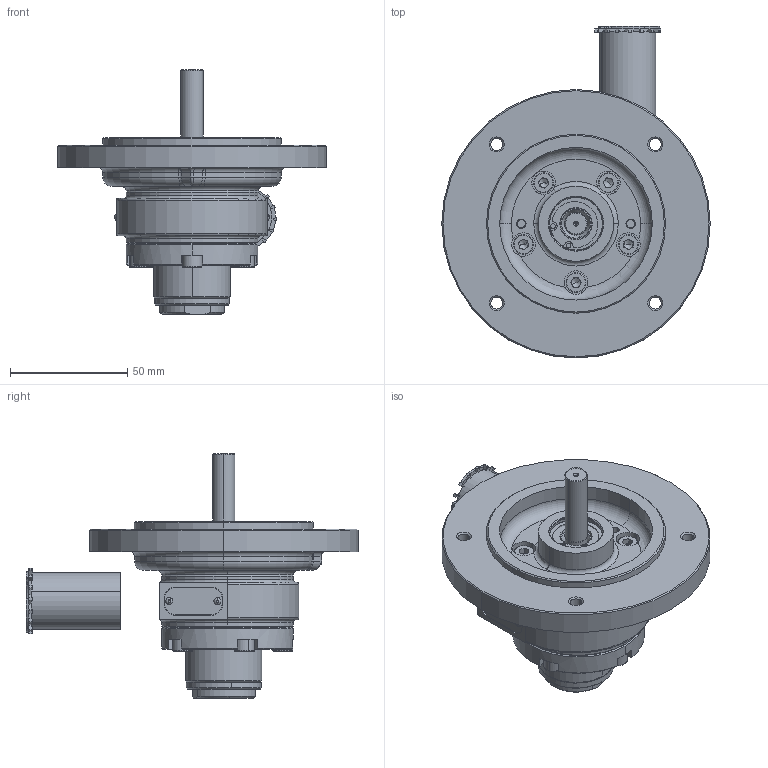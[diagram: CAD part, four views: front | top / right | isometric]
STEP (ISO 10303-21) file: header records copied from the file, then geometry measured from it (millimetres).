
FILE_DESCRIPTION (( 'STEP AP214' ), '1' );
FILE_NAME ('1VMN (Nema)_Solid 29-07-25.STEP', '2025-07-29T09:07:11', ( '' ), ( '' ), 'SwSTEP 2.0', 'SolidWorks 2017', '' );
FILE_SCHEMA (( 'AUTOMOTIVE_DESIGN' ));
Length unit declared in the file: millimetre
Products named in the file (2): 1VMN (Nema)_Solid 29-07-25
Bounding box: 114.3 x 141.38 x 104.33 mm (x, y, z)
Volume: 234555.8 mm3; surface area: 87686.5 mm2
Topology: 34 solids, 35 shells, 1192 faces, 2855 edges, 1757 vertices
Faces by surface type: plane 505, cylinder 354, cone 223, torus 107, sphere 2, bspline 1
Entity records: 50233 total; most frequent: CARTESIAN_POINT 6826, DIRECTION 6506, ORIENTED_EDGE 5830, EDGE_CURVE 2915, AXIS2_PLACEMENT_3D 2481, VERTEX_POINT 1817, LINE 1544, VECTOR 1544
